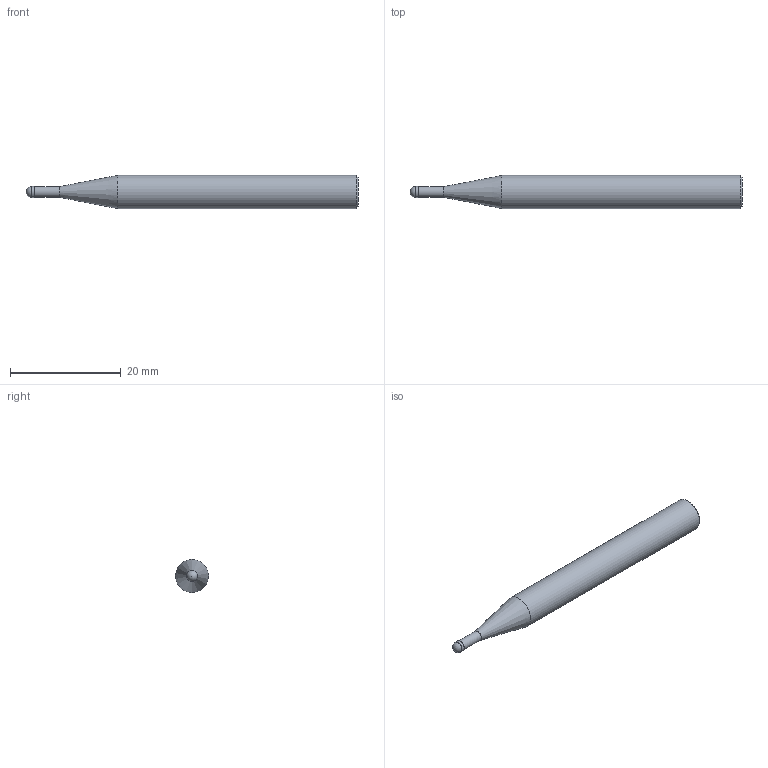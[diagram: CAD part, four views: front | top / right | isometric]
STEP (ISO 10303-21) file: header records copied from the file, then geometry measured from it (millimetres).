
FILE_DESCRIPTION(/* description */ (''),/* implementation_level */ '2;1');
FILE_NAME(/* name */ 'HSXB2020 0660.stp',/* time_stamp */ '2026-08-01T16:31:54+08:00',/* author */ (''),/* organization */ (''),/* preprocessor_version */ 'ST-DEVELOPER v16',/* originating_system */ 'SIEMENS PLM Software NX 10.0',/* authorisation */ '');
FILE_SCHEMA (('CONFIG_CONTROL_DESIGN'));
Length unit declared in the file: millimetre
Products named in the file (1): HSXB2020 0660_dxf
Bounding box: 60 x 6 x 6 mm (x, y, z)
Volume: 1385.1 mm3; surface area: 1019.5 mm2
Topology: 2 solids, 2 shells, 9 faces, 15 edges, 9 vertices
Faces by surface type: plane 3, cylinder 3, cone 2, sphere 1
Full cylindrical faces by diameter (mm): 1.9 x1, 2 x1, 6 x1
Entity records: 246 total; most frequent: DIRECTION 34, CARTESIAN_POINT 24, AXIS2_PLACEMENT_3D 17, EDGE_LOOP 14, ORIENTED_EDGE 14, FACE_BOUND 10, ADVANCED_FACE 9, PERSON_AND_ORGANIZATION 7
